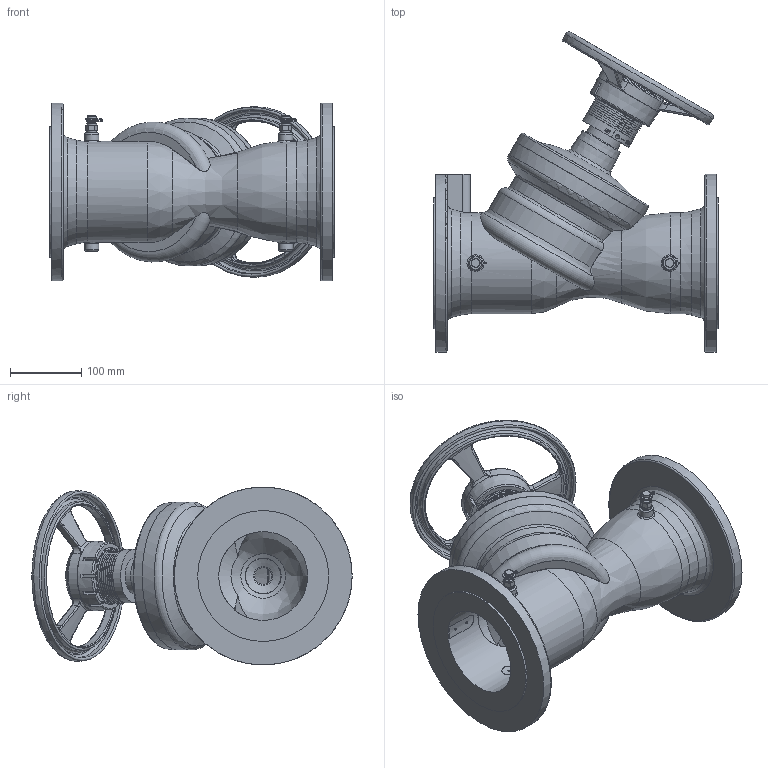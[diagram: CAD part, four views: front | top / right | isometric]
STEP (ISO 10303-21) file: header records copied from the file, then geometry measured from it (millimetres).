
FILE_DESCRIPTION((''),'2;1');
FILE_NAME('P:\Fastrack\53972_CRANE 3D\DM921-941\WORKSPACE\DM921-941\DM931_DN125\DM931_DN125.stp','2011-02-28T09:35:11',('btaylor'),(''),'Autodesk Inventor 2008','Autodesk Inventor 2008','');
FILE_SCHEMA(('AUTOMOTIVE_DESIGN { 1 0 10303 214 1 1 1 1 }'));
Length unit declared in the file: millimetre
Products named in the file (1): DM931_DN125
Bounding box: 400 x 450.07 x 250 mm (x, y, z)
Volume: 191981.6 mm3; surface area: 701468.9 mm2
Topology: 1 solids, 2 shells, 911 faces, 2333 edges, 1487 vertices
Faces by surface type: plane 364, bspline 302, cylinder 151, cone 53, torus 41
Full cylindrical faces by diameter (mm): 6 x2, 7.4 x2, 11 x2, 12.7 x2, 13.7 x2, 20 x6, 21.3 x1, 24 x1, 30 x1, 46 x1, 50 x2, 61 x1, 68 x1, 69 x1, 72 x1, 75 x1, 80 x1, 125 x2, 142 x1, 184 x2, 250 x1
Entity records: 79671 total; most frequent: CARTESIAN_POINT 59367, ORIENTED_EDGE 4338, DIRECTION 3169, EDGE_CURVE 2169, VERTEX_POINT 1439, AXIS2_PLACEMENT_3D 1158, EDGE_LOOP 1110, STYLED_ITEM 912
